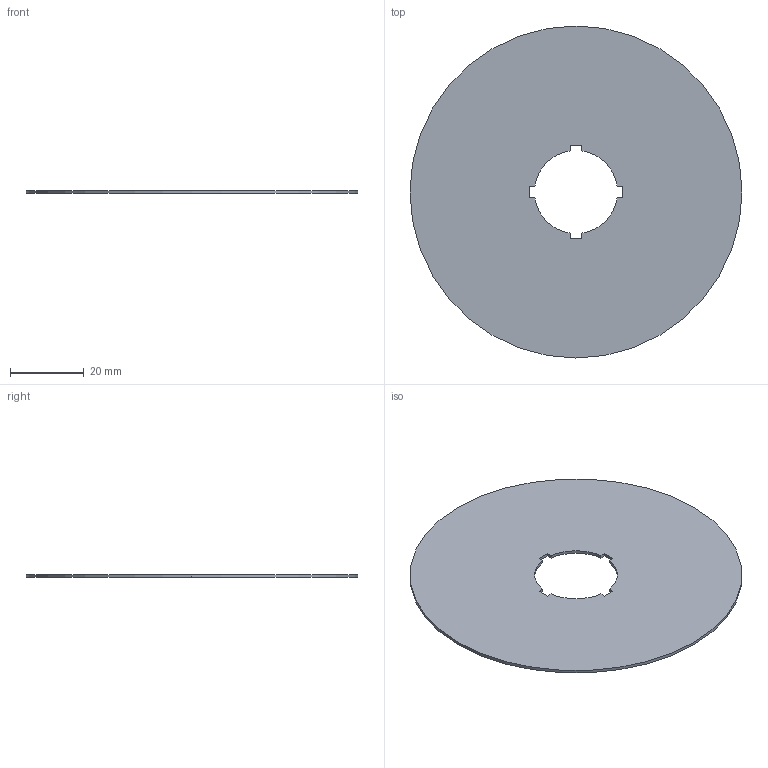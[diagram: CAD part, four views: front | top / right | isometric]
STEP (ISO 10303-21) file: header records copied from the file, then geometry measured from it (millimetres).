
FILE_DESCRIPTION( ( '' ), '1' );
FILE_NAME( '//expscmdclustefs.cadenas.external/client_exchange/iodir/jobs/output/wkb45967075_no0/STEP/216465_2_03.stp', '2012-06-14T13:18:08', ( '' ), ( '' ), ' ', ' ', ' ' );
FILE_SCHEMA( ( 'CONFIG_CONTROL_DESIGN' ) );
Length unit declared in the file: millimetre
Products named in the file (1): 1
Bounding box: 90 x 90 x 0.8 mm (x, y, z)
Volume: 4758.1 mm3; surface area: 12186.7 mm2
Topology: 1 solids, 1 shells, 20 faces, 54 edges, 36 vertices
Faces by surface type: plane 14, cylinder 6
Entity records: 678 total; most frequent: CARTESIAN_POINT 111, DIRECTION 108, ORIENTED_EDGE 108, EDGE_CURVE 54, LINE 42, VECTOR 42, VERTEX_POINT 36, AXIS2_PLACEMENT_3D 33
